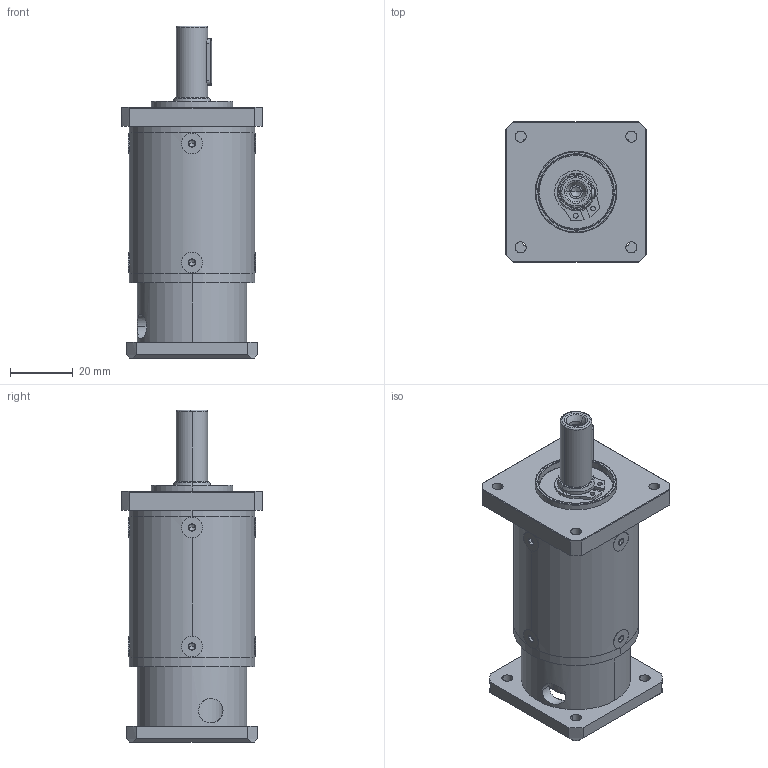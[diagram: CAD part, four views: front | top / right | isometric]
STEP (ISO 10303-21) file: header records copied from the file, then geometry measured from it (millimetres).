
FILE_DESCRIPTION (( 'STEP AP214' ), '1' );
FILE_NAME ('GSFL-040-0_ _-N017_-XX Two Stage.step', '2025-08-25T19:20:01', ( '' ), ( '' ), 'SwSTEP 2.0', 'SolidWorks 2020', '' );
FILE_SCHEMA (( 'AUTOMOTIVE_DESIGN' ));
Length unit declared in the file: millimetre
Products named in the file (1): GSFL-040-0_ _-N017_-XX Two Stage
Bounding box: 45 x 45 x 106 mm (x, y, z)
Volume: 62813.3 mm3; surface area: 44517.6 mm2
Topology: 27 solids, 27 shells, 1135 faces, 3003 edges, 1864 vertices
Faces by surface type: bspline 381, cylinder 327, plane 263, cone 164
Entity records: 50733 total; most frequent: CARTESIAN_POINT 22411, ORIENTED_EDGE 5850, DIRECTION 4641, EDGE_CURVE 2925, AXIS2_PLACEMENT_3D 2001, VERTEX_POINT 1864, EDGE_LOOP 1325, CIRCLE 1246
